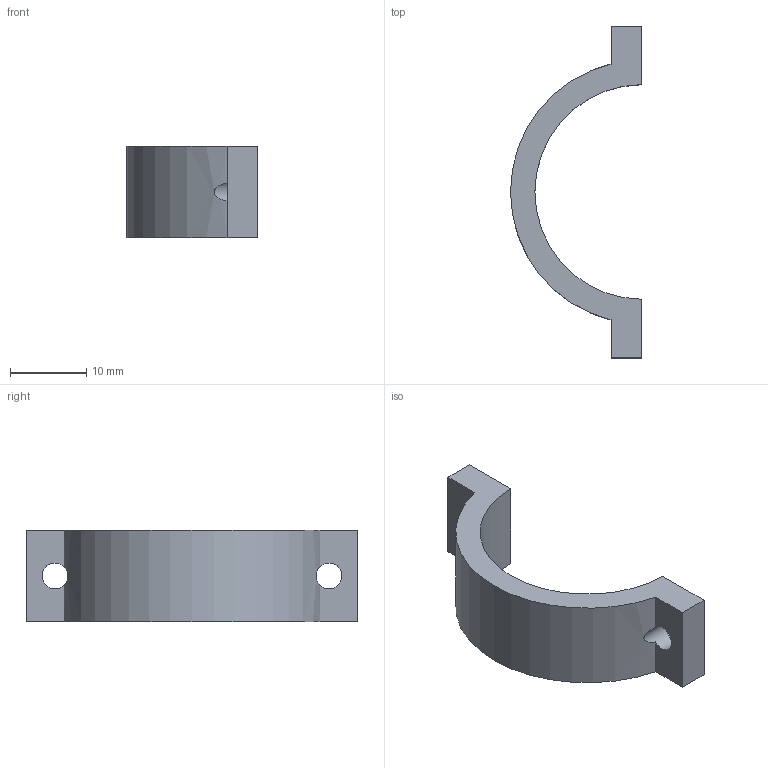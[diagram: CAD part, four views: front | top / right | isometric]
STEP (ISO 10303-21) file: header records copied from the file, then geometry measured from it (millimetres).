
FILE_DESCRIPTION(('Open CASCADE Model'),'2;1');
FILE_NAME('E_motor_top_clamp','2026-11-05T16:12:21',('Author'),( 'Open CASCADE'),'Open CASCADE STEP processor 7.9','build123d', 'Unknown');
FILE_SCHEMA(('AUTOMOTIVE_DESIGN { 1 0 10303 214 1 1 1 1 }'));
Length unit declared in the file: millimetre
Products named in the file (2): E_motor_top_clamp
Assembly tree (1 placements, depth 2):
  E_motor_top_clamp
    E_motor_top_clamp
Bounding box: 17.2 x 43.6 x 12 mm (x, y, z)
Volume: 2260.5 mm3; surface area: 1922.7 mm2
Topology: 1 solids, 1 shells, 12 faces, 36 edges, 24 vertices
Faces by surface type: plane 8, cylinder 4
Full cylindrical faces by diameter (mm): 3.4 x2
Entity records: 1286 total; most frequent: CARTESIAN_POINT 518, DIRECTION 134, LINE 76, VECTOR 76, ORIENTED_EDGE 72, PCURVE 72, DEFINITIONAL_REPRESENTATION 72, EDGE_CURVE 36
